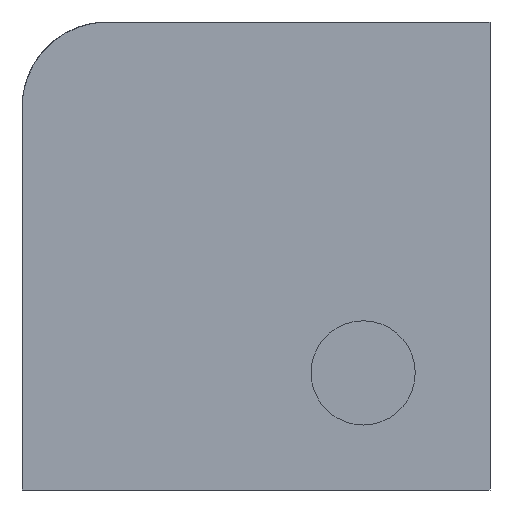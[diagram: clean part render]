
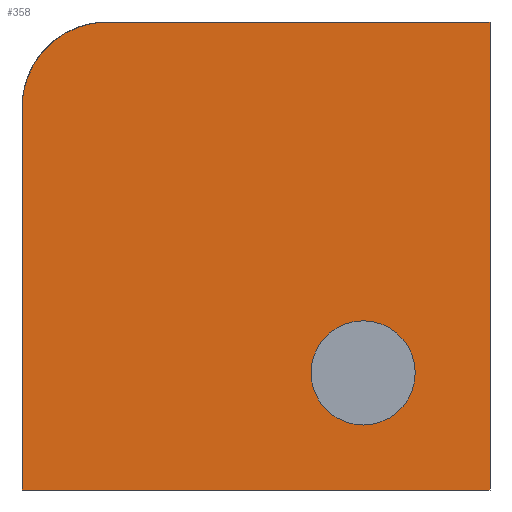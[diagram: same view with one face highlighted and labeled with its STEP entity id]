
A CAD part, front view. The second image highlights one B-rep face of the part: STEP entity #358.
In plain terms, the highlighted planar face has unit normal (0, -1, 0).
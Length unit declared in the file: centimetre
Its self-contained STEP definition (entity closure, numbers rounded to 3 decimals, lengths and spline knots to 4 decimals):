
#5 = FACE_BOUND ( 'NONE', #651, .T. ) ;
#7 = VERTEX_POINT ( 'NONE', #74 ) ;
#9 = VECTOR ( 'NONE', #916, 100. ) ;
#10 = DIRECTION ( 'NONE',  ( 0., 0., 1. ) ) ;
#24 = EDGE_CURVE ( 'NONE', #110, #897, #165, .T. ) ;
#43 = DIRECTION ( 'NONE',  ( 0., 0., -1. ) ) ;
#55 = CARTESIAN_POINT ( 'NONE',  ( 182.6741, 0., 817.3259 ) ) ;
#59 = ORIENTED_EDGE ( 'NONE', *, *, #281, .F. ) ;
#74 = CARTESIAN_POINT ( 'NONE',  ( 182.6741, 0., 1000. ) ) ;
#90 = AXIS2_PLACEMENT_3D ( 'NONE', #430, #427, #776 ) ;
#110 = VERTEX_POINT ( 'NONE', #896 ) ;
#120 = LINE ( 'NONE', #576, #9 ) ;
#130 = DIRECTION ( 'NONE',  ( 0., -1., 0. ) ) ;
#131 = CIRCLE ( 'NONE', #256, 182.6741 ) ;
#156 = CARTESIAN_POINT ( 'NONE',  ( 0., 0., 0. ) ) ;
#157 = VERTEX_POINT ( 'NONE', #473 ) ;
#161 = VERTEX_POINT ( 'NONE', #762 ) ;
#165 = LINE ( 'NONE', #156, #892 ) ;
#221 = VERTEX_POINT ( 'NONE', #347 ) ;
#236 = ORIENTED_EDGE ( 'NONE', *, *, #643, .F. ) ;
#240 = ORIENTED_EDGE ( 'NONE', *, *, #442, .F. ) ;
#244 = ORIENTED_EDGE ( 'NONE', *, *, #319, .T. ) ;
#256 = AXIS2_PLACEMENT_3D ( 'NONE', #55, #130, #842 ) ;
#261 = CIRCLE ( 'NONE', #90, 111.3313 ) ;
#281 = EDGE_CURVE ( 'NONE', #161, #697, #261, .T. ) ;
#319 = EDGE_CURVE ( 'NONE', #221, #110, #644, .T. ) ;
#325 = ORIENTED_EDGE ( 'NONE', *, *, #895, .F. ) ;
#347 = CARTESIAN_POINT ( 'NONE',  ( 0., 0., 817.3259 ) ) ;
#358 = ADVANCED_FACE ( 'NONE', ( #5, #882 ), #739, .F. ) ;
#375 = VECTOR ( 'NONE', #566, 100. ) ;
#405 = AXIS2_PLACEMENT_3D ( 'NONE', #475, #920, #43 ) ;
#427 = DIRECTION ( 'NONE',  ( 0., -1., 0. ) ) ;
#430 = CARTESIAN_POINT ( 'NONE',  ( 728.908, 0., 250.2005 ) ) ;
#442 = EDGE_CURVE ( 'NONE', #157, #897, #671, .T. ) ;
#473 = CARTESIAN_POINT ( 'NONE',  ( 1000., 0., 1000. ) ) ;
#475 = CARTESIAN_POINT ( 'NONE',  ( 728.908, 0., 250.2005 ) ) ;
#513 = CARTESIAN_POINT ( 'NONE',  ( 0., 0., 1000. ) ) ;
#565 = CARTESIAN_POINT ( 'NONE',  ( 728.908, 0., 361.5318 ) ) ;
#566 = DIRECTION ( 'NONE',  ( 0., 0., -1. ) ) ;
#576 = CARTESIAN_POINT ( 'NONE',  ( 0., 0., 1000. ) ) ;
#582 = AXIS2_PLACEMENT_3D ( 'NONE', #513, #867, #10 ) ;
#602 = DIRECTION ( 'NONE',  ( 1., 0., 0. ) ) ;
#641 = CARTESIAN_POINT ( 'NONE',  ( 1000., 0., 0. ) ) ;
#643 = EDGE_CURVE ( 'NONE', #7, #157, #120, .T. ) ;
#644 = LINE ( 'NONE', #922, #375 ) ;
#651 = EDGE_LOOP ( 'NONE', ( #59, #325 ) ) ;
#671 = LINE ( 'NONE', #878, #926 ) ;
#697 = VERTEX_POINT ( 'NONE', #565 ) ;
#726 = EDGE_LOOP ( 'NONE', ( #236, #930, #244, #764, #240 ) ) ;
#739 = PLANE ( 'NONE',  #582 ) ;
#745 = EDGE_CURVE ( 'NONE', #7, #221, #131, .T. ) ;
#762 = CARTESIAN_POINT ( 'NONE',  ( 728.908, 0., 138.8691 ) ) ;
#764 = ORIENTED_EDGE ( 'NONE', *, *, #24, .T. ) ;
#776 = DIRECTION ( 'NONE',  ( 0., 0., -1. ) ) ;
#842 = DIRECTION ( 'NONE',  ( 0., 0., 1. ) ) ;
#860 = CIRCLE ( 'NONE', #405, 111.3313 ) ;
#867 = DIRECTION ( 'NONE',  ( 0., 1., 0. ) ) ;
#874 = DIRECTION ( 'NONE',  ( 0., 0., -1. ) ) ;
#878 = CARTESIAN_POINT ( 'NONE',  ( 1000., 0., 1000. ) ) ;
#882 = FACE_OUTER_BOUND ( 'NONE', #726, .T. ) ;
#892 = VECTOR ( 'NONE', #602, 100. ) ;
#895 = EDGE_CURVE ( 'NONE', #697, #161, #860, .T. ) ;
#896 = CARTESIAN_POINT ( 'NONE',  ( 0., 0., 0. ) ) ;
#897 = VERTEX_POINT ( 'NONE', #641 ) ;
#916 = DIRECTION ( 'NONE',  ( 1., 0., 0. ) ) ;
#920 = DIRECTION ( 'NONE',  ( 0., -1., 0. ) ) ;
#922 = CARTESIAN_POINT ( 'NONE',  ( 0., 0., 1000. ) ) ;
#926 = VECTOR ( 'NONE', #874, 100. ) ;
#930 = ORIENTED_EDGE ( 'NONE', *, *, #745, .T. ) ;
